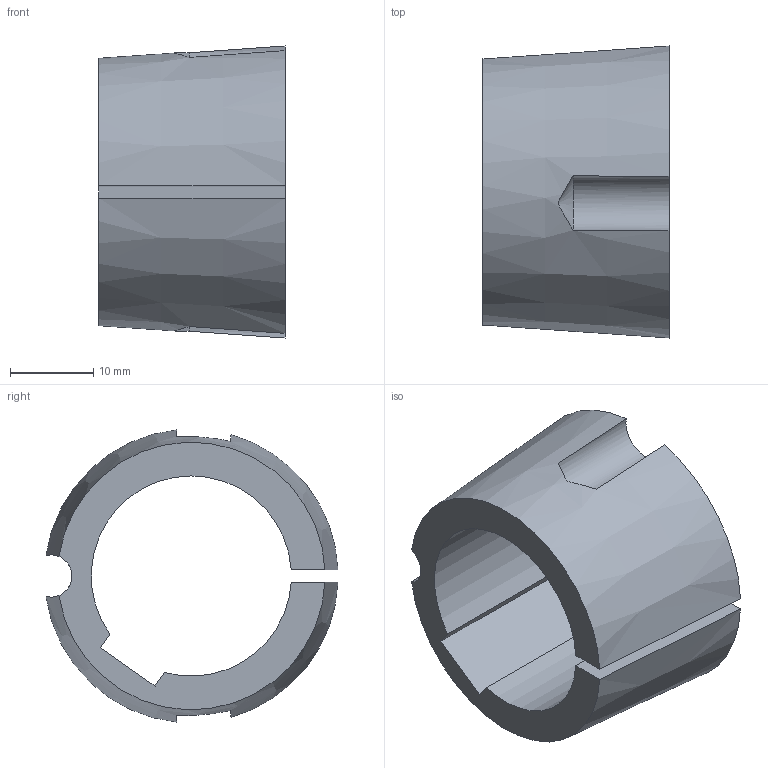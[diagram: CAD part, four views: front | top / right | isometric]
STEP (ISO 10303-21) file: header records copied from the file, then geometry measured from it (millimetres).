
FILE_DESCRIPTION( ( 'STEP AP203' ), '1' );
FILE_NAME( 'D:/export/antriebselemente/spannbuchsen_und_spannsaetze/taper-spannbuchsen_1008_bis_5050/taper-spannbuchsen_62250124Isometric_14.stp', '2018-12-11T11:10:57', ( '' ), ( '' ), ' ', 'PARTsolutions', ' ' );
FILE_SCHEMA( ( 'CONFIG_CONTROL_DESIGN' ) );
Length unit declared in the file: millimetre
Products named in the file (1): _taper-spannbuchsen_62250124
Bounding box: 22.3 x 35.01 x 35.02 mm (x, y, z)
Volume: 8660.4 mm3; surface area: 5216 mm2
Topology: 1 solids, 1 shells, 16 faces, 42 edges, 28 vertices
Faces by surface type: plane 7, cylinder 5, cone 4
Entity records: 602 total; most frequent: CARTESIAN_POINT 163, ORIENTED_EDGE 84, DIRECTION 82, EDGE_CURVE 42, AXIS2_PLACEMENT_3D 33, VERTEX_POINT 28, ADVANCED_FACE 16, FACE_OUTER_BOUND 16
